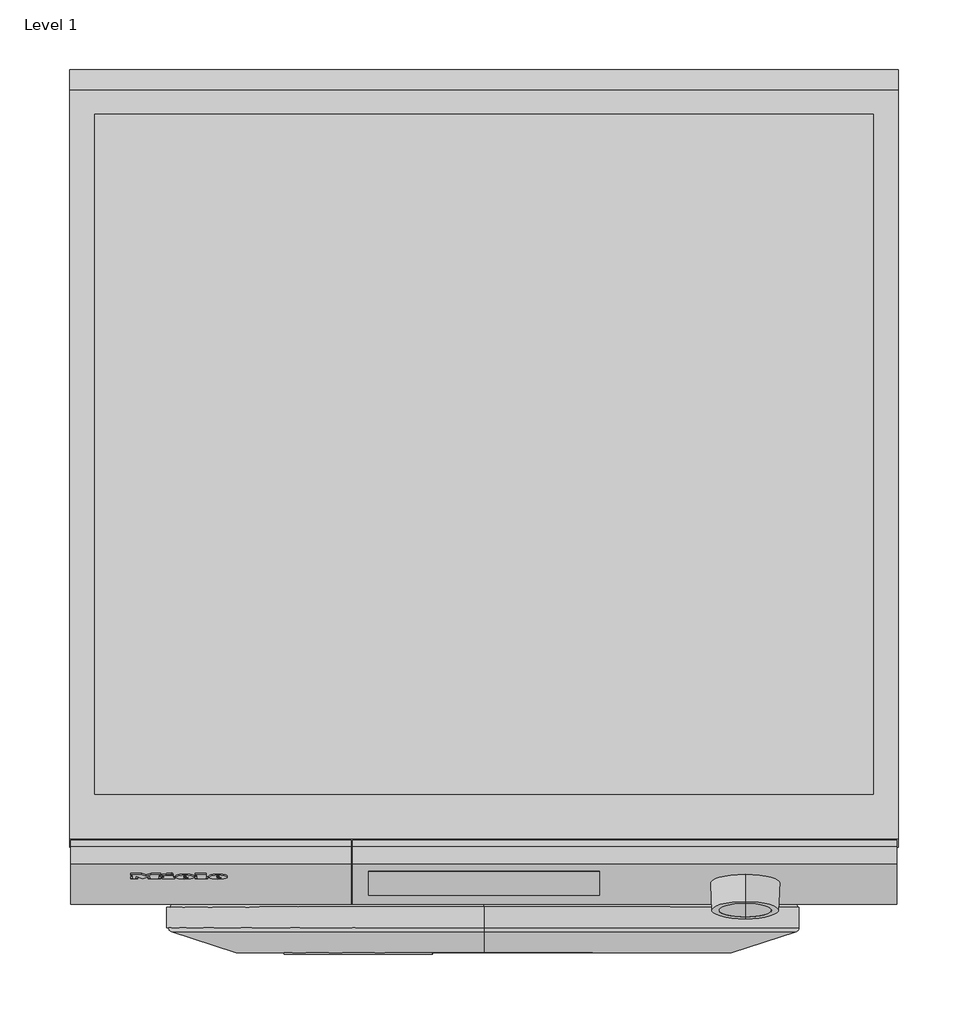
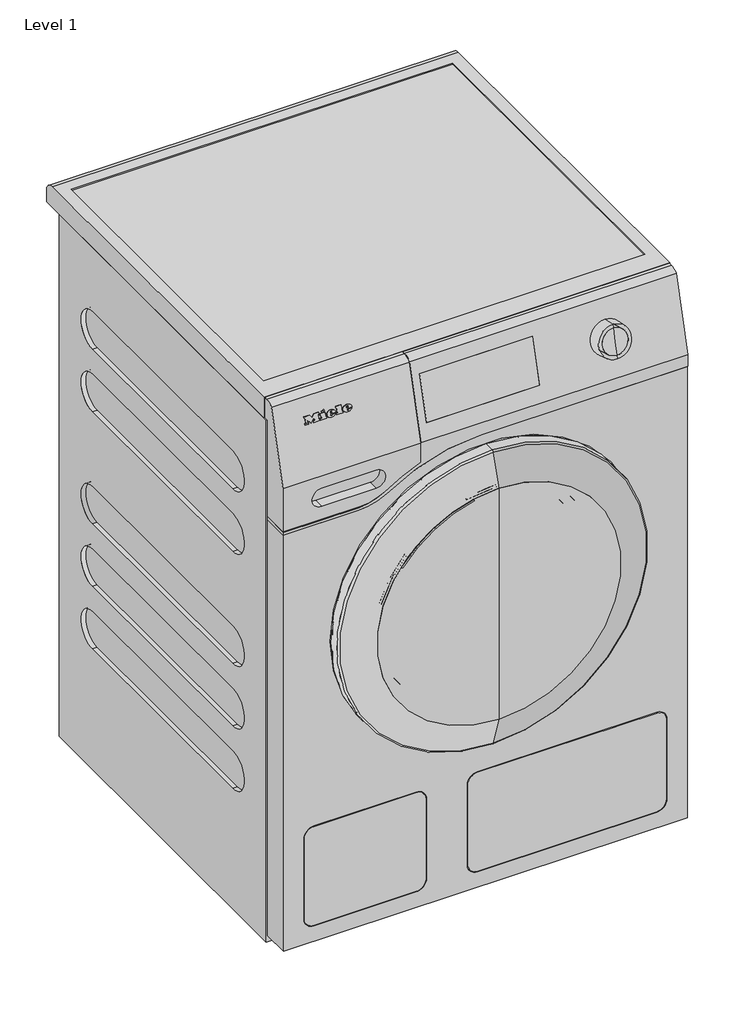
# One storey: 1 proxy.
"""IFC4 building model written with IfcOpenShell, lengths in millimetres."""

from ifc_helpers import new_model, si_unit, origin, place, context, project, spatial, transform, mapped, element, save
from components import specialty_equipment_6f7c696d, specialty_equipment_badbdaf0

model = new_model("IFC4")

# Units and contexts
model_context = context("Model", 3, world=origin())
ifc_project = project(units=[si_unit("LENGTHUNIT", "METRE", prefix="MILLI")], contexts=[model_context])

# Site, building, storey
site = spatial("IfcSite", under=ifc_project)
building = spatial("IfcBuilding", under=site)
storey = spatial("IfcBuildingStorey", under=building, Name="Level 1", Elevation=0.0)

# Proxy
placement = place(None, origin())
specialty_equipment_shape = specialty_equipment_6f7c696d(model_context)
specialty_equipment_2_shape = specialty_equipment_badbdaf0(model_context)
element("IfcBuildingElementProxy", 1, Name="11361110_I_WCI870WCS_LW : 11CI8701_I_11361110_WCI870WCS_LW", ObjectType="11361110_I_WCI870WCS_LW : 11CI8701_I_11361110_WCI870WCS_LW", at=placement, inside=storey, context=model_context, shape_type="MappedRepresentation", body=[
    mapped(specialty_equipment_shape, transform((0.0, 0.0, 0.0), x_axis=(1.0, 0.0, 0.0), y_axis=(0.0, 1.0, 0.0), z_axis=(0.0, 0.0, 1.0))),
    mapped(specialty_equipment_2_shape, transform((0.0, 0.0, 0.0), x_axis=(1.0, 0.0, 0.0), y_axis=(0.0, 1.0, 0.0), z_axis=(0.0, 0.0, 1.0))),
])

save(model, "model.ifc")
